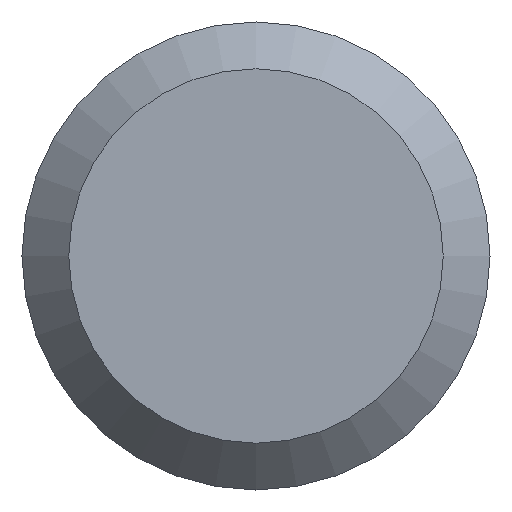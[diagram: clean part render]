
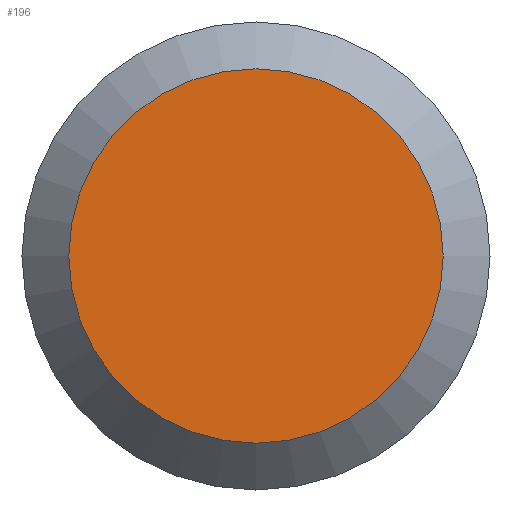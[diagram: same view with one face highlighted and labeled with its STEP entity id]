
A CAD part, left-side view. The second image highlights one B-rep face of the part: STEP entity #196.
In plain terms, the highlighted planar face has unit normal (-1, 0, 0).
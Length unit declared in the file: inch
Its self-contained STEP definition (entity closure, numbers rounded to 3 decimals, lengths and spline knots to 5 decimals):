
#28 = EDGE_LOOP ( 'NONE', ( #215 ) ) ;
#47 = AXIS2_PLACEMENT_3D ( 'NONE', #209, #93, #90 ) ;
#90 = DIRECTION ( 'NONE',  ( 0., 0., -1. ) ) ;
#93 = DIRECTION ( 'NONE',  ( 1., 0., 0. ) ) ;
#106 = CARTESIAN_POINT ( 'NONE',  ( 0., 0., 0. ) ) ;
#116 = DIRECTION ( 'NONE',  ( -1., 0., 0. ) ) ;
#121 = CARTESIAN_POINT ( 'NONE',  ( 0., 0., -0.1432 ) ) ;
#136 = FACE_OUTER_BOUND ( 'NONE', #28, .T. ) ;
#143 = CIRCLE ( 'NONE', #248, 0.1432 ) ;
#161 = EDGE_CURVE ( 'NONE', #189, #189, #143, .T. ) ;
#184 = PLANE ( 'NONE',  #47 ) ;
#189 = VERTEX_POINT ( 'NONE', #121 ) ;
#196 = ADVANCED_FACE ( 'NONE', ( #136 ), #184, .F. ) ;
#209 = CARTESIAN_POINT ( 'NONE',  ( 0., 0.179, 0. ) ) ;
#215 = ORIENTED_EDGE ( 'NONE', *, *, #161, .T. ) ;
#235 = DIRECTION ( 'NONE',  ( 0., 0., -1. ) ) ;
#248 = AXIS2_PLACEMENT_3D ( 'NONE', #106, #116, #235 ) ;
